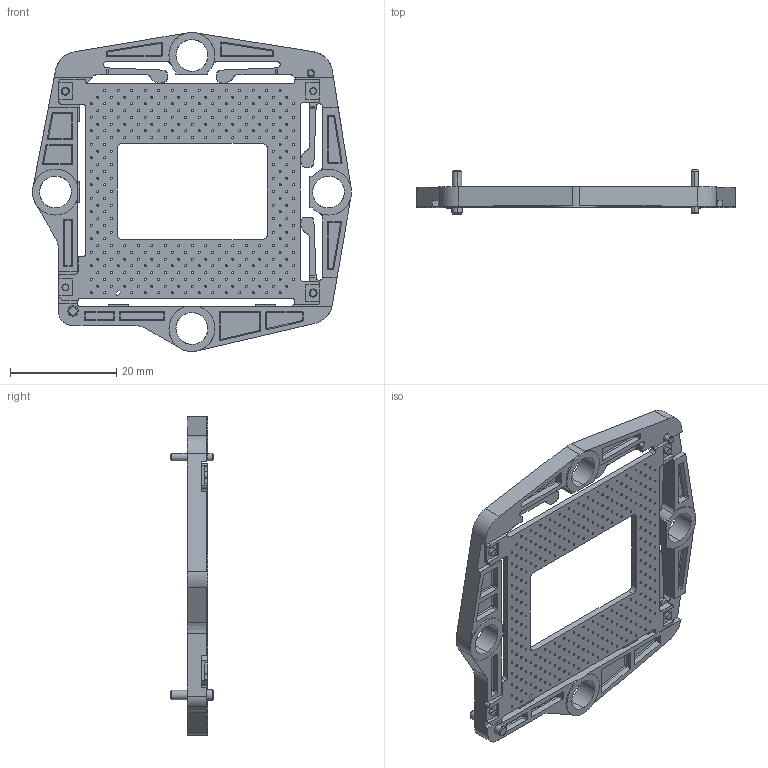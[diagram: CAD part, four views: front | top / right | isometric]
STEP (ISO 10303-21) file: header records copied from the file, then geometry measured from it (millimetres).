
FILE_DESCRIPTION (( 'STEP AP214' ), '1' );
FILE_NAME ('2515700-B.STEP', '2017-09-26T14:12:20', ( '' ), ( '' ), 'SwSTEP 2.0', 'SolidWorks 2017', '' );
FILE_SCHEMA (( 'AUTOMOTIVE_DESIGN' ));
Length unit declared in the file: millimetre
Products named in the file (3): 2501154; 2515701; 2515700-B
Assembly tree (2 placements, depth 2):
  2515700-B
    2501154
    2515701
Bounding box: 60.02 x 8.21 x 60.03 mm (x, y, z)
Volume: 3957.3 mm3; surface area: 7538.2 mm2
Topology: 2 solids, 2 shells, 1273 faces, 3646 edges, 2318 vertices
Faces by surface type: cylinder 900, plane 277, bspline 88, cone 8
Entity records: 46815 total; most frequent: CARTESIAN_POINT 12828, ORIENTED_EDGE 7116, DIRECTION 6863, EDGE_CURVE 3558, AXIS2_PLACEMENT_3D 2644, VERTEX_POINT 2318, EDGE_LOOP 1932, LINE 1575
